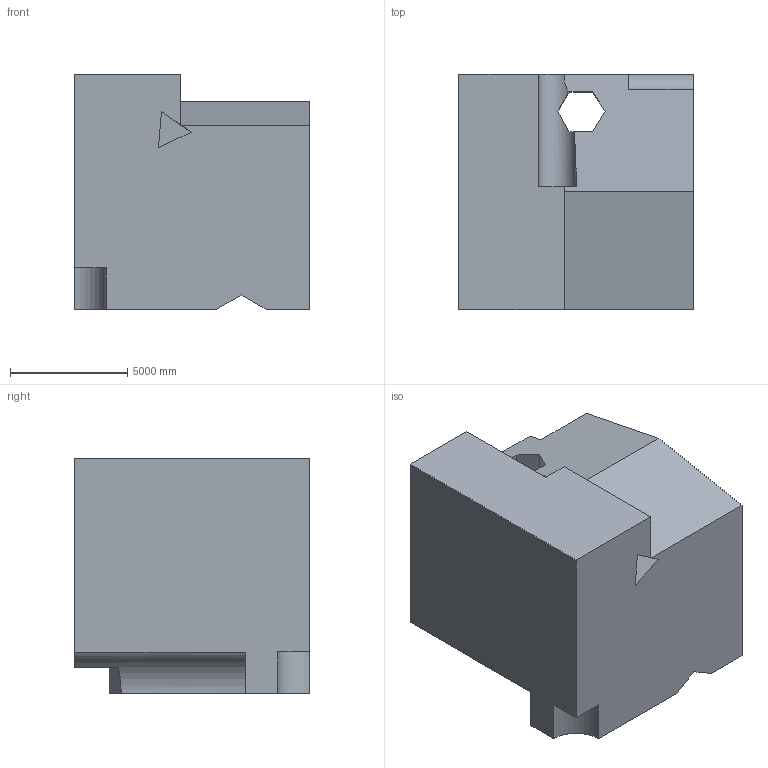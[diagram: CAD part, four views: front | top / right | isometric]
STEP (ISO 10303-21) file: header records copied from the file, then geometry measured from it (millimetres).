
FILE_DESCRIPTION (( 'STEP AP203' ), '1' );
FILE_NAME ('364.STEP', '2022-09-07T15:23:25', ( 'user' ), ( '' ), 'SwSTEP 2.0', 'SolidWorks 2021', '' );
FILE_SCHEMA (( 'CONFIG_CONTROL_DESIGN' ));
Length unit declared in the file: centimetre
Products named in the file (1): 364
Bounding box: 10000 x 10000 x 10000 mm (x, y, z)
Volume: 824607963845.5 mm3; surface area: 626793053.7 mm2
Topology: 1 solids, 1 shells, 38 faces, 111 edges, 74 vertices
Faces by surface type: plane 33, cylinder 5
Entity records: 1327 total; most frequent: CARTESIAN_POINT 239, ORIENTED_EDGE 222, DIRECTION 195, EDGE_CURVE 111, LINE 95, VECTOR 95, VERTEX_POINT 74, AXIS2_PLACEMENT_3D 50
